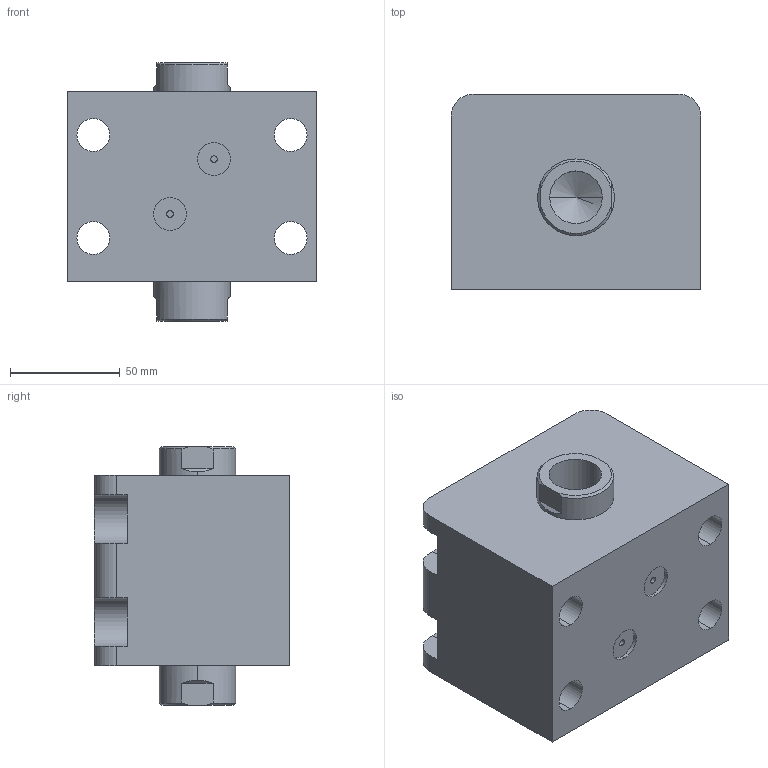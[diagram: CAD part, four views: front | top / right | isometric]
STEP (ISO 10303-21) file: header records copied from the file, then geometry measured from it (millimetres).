
FILE_DESCRIPTION (( 'STEP AP203' ), '1' );
FILE_NAME ('HTB-LWM63-5N.STEP', '2020-12-25T03:31:55', ( '微软用户' ), ( '微软中国' ), 'SwSTEP 2.0', 'SolidWorks 2012', '' );
FILE_SCHEMA (( 'CONFIG_CONTROL_DESIGN' ));
Length unit declared in the file: millimetre
Products named in the file (3): HTB-LWM63-5N; HTB-LWM63-5掛极; HTB-LWM63-5N活塞杆
Assembly tree (2 placements, depth 2):
  HTB-LWM63-5N
    HTB-LWM63-5掛极
    HTB-LWM63-5N活塞杆
Bounding box: 114 x 89 x 118 mm (x, y, z)
Volume: 783215.1 mm3; surface area: 110495.4 mm2
Topology: 2 solids, 2 shells, 94 faces, 234 edges, 150 vertices
Faces by surface type: cylinder 42, plane 36, torus 8, cone 8
Entity records: 3139 total; most frequent: CARTESIAN_POINT 535, DIRECTION 516, ORIENTED_EDGE 460, EDGE_CURVE 230, AXIS2_PLACEMENT_3D 203, VERTEX_POINT 150, EDGE_LOOP 114, LINE 110
